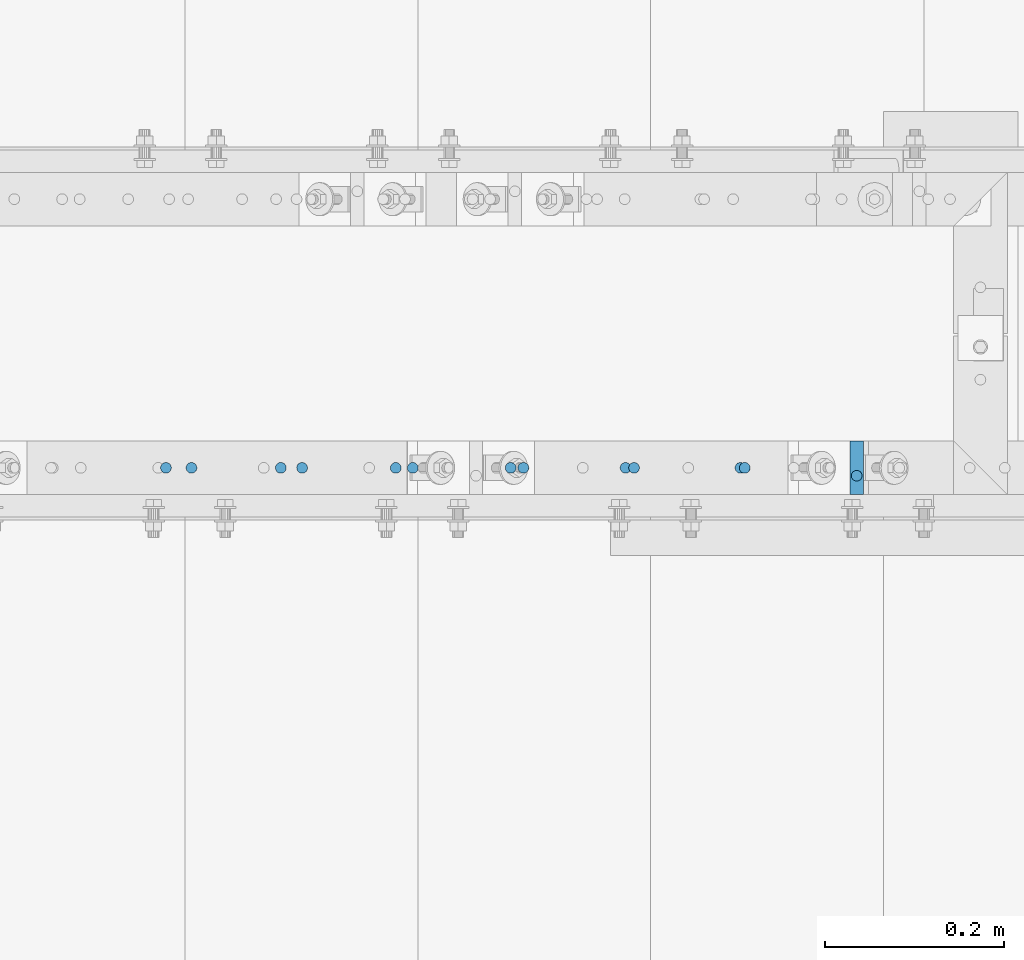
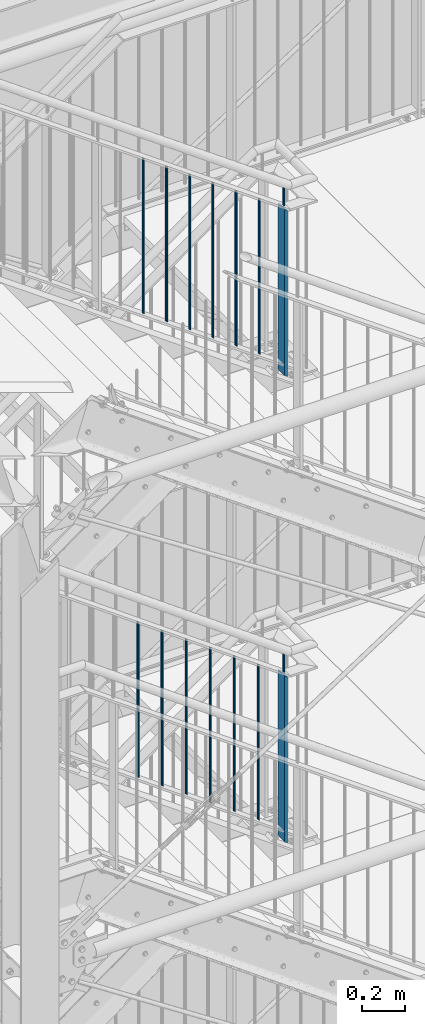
# One storey, part 61 of 825: 16 columns.
"""IFC2X3 building model written with IfcOpenShell, lengths in millimetres."""

from ifc_helpers import new_model, entity, si_unit, converted_unit, frame, origin, origin_with_axes, origin_2d, place, context, project, spatial, rectangle, circle, extrude, clip, halfspace, material, element, save


model = new_model("IFC2X3")

# Units and contexts
model_context = context("Model", 3, precision=1e-09, world=origin_with_axes())
ifc_project = project(units=[si_unit("LENGTHUNIT", "METRE", prefix="MILLI"), si_unit("AREAUNIT", "SQUARE_METRE"), si_unit("VOLUMEUNIT", "CUBIC_METRE"), converted_unit("PLANEANGLEUNIT", "DEGREE", entity("IfcPlaneAngleMeasure", 0.01745329), si_unit("PLANEANGLEUNIT", "RADIAN"), dimensions=[0, 0, 0, 0, 0, 0, 0])], contexts=[model_context])

# Site, building, storey
site_placement = place(None, origin_with_axes())
site = spatial("IfcSite", under=ifc_project, at=site_placement, Name="Cnopf'sche Kinderklinik", CompositionType="ELEMENT")
building_placement = place(site_placement, origin_with_axes())
building = spatial("IfcBuilding", under=site, at=building_placement, Name="Struktur 1", CompositionType="ELEMENT")
storey_placement = place(building_placement, origin_with_axes())
storey = spatial("IfcBuildingStorey", under=building, at=storey_placement, Name="Default Storey", CompositionType="ELEMENT", Elevation=0.0)

# Columns
ifc_material = material(Name="S235JR")
column_1_placement = place(None, frame((7026.714402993, 5791.736971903, 14957.874708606), z_axis=(0.0, 0.0, 1.0), x_axis=(-1.0, 0.0, 0.0)))
element("IfcColumn", 1, at=column_1_placement, inside=storey, material=ifc_material, Name="Railing_Post_Stair#0", ObjectType="Railing_Post_Stair#0", context=model_context, shape_type="Clipping", body=[
    clip(clip(extrude(rectangle(XDim=15.0, YDim=60.0, at=origin_2d()), origin(), (0.0, 0.0, -1.0), 1013.143391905), halfspace(frame((-2031.14262409, 5791.736971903, -2445.313197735), z_axis=(-0.586383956, 0.0, 0.810033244), x_axis=(0.0, -1.0, 0.0)), True)), halfspace(frame((-2476.109090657, 5791.736971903, -1830.634663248), z_axis=(0.586383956, 0.0, -0.810033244), x_axis=(0.0, 1.0, 0.0)), True)),
])
column_2_placement = place(None, frame((6896.934402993, 5791.736971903, 15024.122482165), z_axis=(0.0, 0.0, 1.0), x_axis=(-1.0, 0.0, 0.0)))
element("IfcColumn", 2, at=column_2_placement, inside=storey, material=ifc_material, Name="Railing_Picket_Stair#0", ObjectType="Railing_Picket_Stair#0", context=model_context, shape_type="Clipping", body=[
    clip(clip(extrude(circle(Radius=6.0, at=origin_2d()), origin(), (0.0, 0.0, -1.0), 896.017308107), halfspace(frame((-2605.889090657, 5791.736971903, -1896.882436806), z_axis=(0.586383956, 0.0, -0.810033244), x_axis=(0.0, 1.0, 0.0)), True)), halfspace(frame((-2190.241821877, 5791.736971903, -2471.059309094), z_axis=(-0.586383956, 0.0, 0.810033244), x_axis=(0.0, -1.0, 0.0)), True)),
])
column_3_placement = place(None, frame((6768.657188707, 5791.736971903, 15116.982498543), z_axis=(0.0, 0.0, 1.0), x_axis=(-1.0, 0.0, 0.0)))
element("IfcColumn", 3, at=column_3_placement, inside=storey, material=ifc_material, Name="Railing_Picket_Stair#1", ObjectType="Railing_Picket_Stair#1", context=model_context, shape_type="Clipping", body=[
    clip(clip(extrude(circle(Radius=6.0, at=origin_2d()), origin(), (0.0, 0.0, -1.0), 896.017308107), halfspace(frame((-2734.166304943, 5791.736971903, -1989.742453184), z_axis=(0.586383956, 0.0, -0.810033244), x_axis=(0.0, 1.0, 0.0)), True)), halfspace(frame((-2318.519036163, 5791.736971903, -2563.919325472), z_axis=(-0.586383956, 0.0, 0.810033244), x_axis=(0.0, -1.0, 0.0)), True)),
])
column_4_placement = place(None, frame((6640.379974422, 5791.736971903, 15209.842514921), z_axis=(0.0, 0.0, 1.0), x_axis=(-1.0, 0.0, 0.0)))
element("IfcColumn", 4, at=column_4_placement, inside=storey, material=ifc_material, Name="Railing_Picket_Stair#2", ObjectType="Railing_Picket_Stair#2", context=model_context, shape_type="Clipping", body=[
    clip(clip(extrude(circle(Radius=6.0, at=origin_2d()), origin(), (0.0, 0.0, -1.0), 896.017308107), halfspace(frame((-2862.443519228, 5791.736971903, -2082.602469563), z_axis=(0.586383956, 0.0, -0.810033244), x_axis=(0.0, 1.0, 0.0)), True)), halfspace(frame((-2446.796250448, 5791.736971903, -2656.779341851), z_axis=(-0.586383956, 0.0, 0.810033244), x_axis=(0.0, -1.0, 0.0)), True)),
])
column_5_placement = place(None, frame((6512.102760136, 5791.736971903, 15302.7025313), z_axis=(0.0, 0.0, 1.0), x_axis=(-1.0, 0.0, 0.0)))
element("IfcColumn", 5, at=column_5_placement, inside=storey, material=ifc_material, Name="Railing_Picket_Stair#3", ObjectType="Railing_Picket_Stair#3", context=model_context, shape_type="Clipping", body=[
    clip(clip(extrude(circle(Radius=6.0, at=origin_2d()), origin(), (0.0, 0.0, -1.0), 896.017308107), halfspace(frame((-2990.720733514, 5791.736971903, -2175.462485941), z_axis=(0.586383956, 0.0, -0.810033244), x_axis=(0.0, 1.0, 0.0)), True)), halfspace(frame((-2575.073464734, 5791.736971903, -2749.639358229), z_axis=(-0.586383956, 0.0, 0.810033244), x_axis=(0.0, -1.0, 0.0)), True)),
])
column_6_placement = place(None, frame((6383.82554585, 5791.736971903, 15395.562547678), z_axis=(0.0, 0.0, 1.0), x_axis=(-1.0, 0.0, 0.0)))
element("IfcColumn", 6, at=column_6_placement, inside=storey, material=ifc_material, Name="Railing_Picket_Stair#4", ObjectType="Railing_Picket_Stair#4", context=model_context, shape_type="Clipping", body=[
    clip(clip(extrude(circle(Radius=6.0, at=origin_2d()), origin(), (0.0, 0.0, -1.0), 896.017308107), halfspace(frame((-3118.9979478, 5791.736971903, -2268.322502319), z_axis=(0.586383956, 0.0, -0.810033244), x_axis=(0.0, 1.0, 0.0)), True)), halfspace(frame((-2703.35067902, 5791.736971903, -2842.499374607), z_axis=(-0.586383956, 0.0, 0.810033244), x_axis=(0.0, -1.0, 0.0)), True)),
])
column_7_placement = place(None, frame((6255.548331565, 5791.736971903, 15488.422564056), z_axis=(0.0, 0.0, 1.0), x_axis=(-1.0, 0.0, 0.0)))
element("IfcColumn", 7, at=column_7_placement, inside=storey, material=ifc_material, Name="Railing_Picket_Stair#5", ObjectType="Railing_Picket_Stair#5", context=model_context, shape_type="Clipping", body=[
    clip(clip(extrude(circle(Radius=6.0, at=origin_2d()), origin(), (0.0, 0.0, -1.0), 896.017308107), halfspace(frame((-3247.275162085, 5791.736971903, -2361.182518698), z_axis=(0.586383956, 0.0, -0.810033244), x_axis=(0.0, 1.0, 0.0)), True)), halfspace(frame((-2831.627893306, 5791.736971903, -2935.359390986), z_axis=(-0.586383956, 0.0, 0.810033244), x_axis=(0.0, -1.0, 0.0)), True)),
])
column_8_placement = place(None, frame((7026.714402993, 5782.936971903, 15042.519769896), z_axis=(0.0, 0.0, 1.0), x_axis=(0.0, 1.0, 0.0)))
element("IfcColumn", 8, at=column_8_placement, inside=storey, material=ifc_material, Name="Bar#0", ObjectType="Bar#0", context=model_context, shape_type="Clipping", body=[
    clip(clip(extrude(circle(Radius=6.0, at=origin_2d()), origin(), (0.0, 0.0, -1.0), 120.950452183), halfspace(frame((-5782.936971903, -2481.97410298, -1907.177772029), z_axis=(0.0, -0.586383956, 0.810033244), x_axis=(1.0, 0.0, 0.0)), True)), halfspace(frame((-5782.936971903, -2529.471979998, -1841.564006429), z_axis=(0.0, 0.586383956, -0.810033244), x_axis=(-1.0, 0.0, 0.0)), True)),
])
column_9_placement = place(None, frame((7026.714402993, 5791.736971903, 17585.251753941), z_axis=(0.0, 0.0, 1.0), x_axis=(-1.0, 0.0, 0.0)))
element("IfcColumn", 9, at=column_9_placement, inside=storey, material=ifc_material, Name="Railing_Post_Stair#0", ObjectType="Railing_Post_Stair#0", context=model_context, shape_type="Clipping", body=[
    clip(clip(extrude(rectangle(XDim=15.0, YDim=60.0, at=origin_2d()), origin(), (0.0, 0.0, -1.0), 1013.117713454), halfspace(frame((-3246.860085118, 5791.736971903, -3312.041393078), z_axis=(-0.584187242, 0.0, 0.811618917), x_axis=(0.0, -1.0, 0.0)), True)), halfspace(frame((-3691.085946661, 5791.736971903, -2694.872638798), z_axis=(0.584187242, 0.0, -0.811618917), x_axis=(0.0, 1.0, 0.0)), True)),
])
column_10_placement = place(None, frame((6901.684402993, 5791.736971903, 17647.599881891), z_axis=(0.0, 0.0, 1.0), x_axis=(-1.0, 0.0, 0.0)))
element("IfcColumn", 10, at=column_10_placement, inside=storey, material=ifc_material, Name="Railing_Picket_Stair#0", ObjectType="Railing_Picket_Stair#0", context=model_context, shape_type="Clipping", body=[
    clip(clip(extrude(circle(Radius=6.0, at=origin_2d()), origin(), (0.0, 0.0, -1.0), 896.220460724), halfspace(frame((-3816.115946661, 5791.736971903, -2757.220766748), z_axis=(0.584187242, 0.0, -0.811618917), x_axis=(0.0, 1.0, 0.0)), True)), halfspace(frame((-3401.099447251, 5791.736971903, -3333.808575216), z_axis=(-0.584187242, 0.0, 0.811618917), x_axis=(0.0, -1.0, 0.0)), True)),
])
column_11_placement = place(None, frame((6778.15269466, 5791.736971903, 17736.515562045), z_axis=(0.0, 0.0, 1.0), x_axis=(-1.0, 0.0, 0.0)))
element("IfcColumn", 11, at=column_11_placement, inside=storey, material=ifc_material, Name="Railing_Picket_Stair#1", ObjectType="Railing_Picket_Stair#1", context=model_context, shape_type="Clipping", body=[
    clip(clip(extrude(circle(Radius=6.0, at=origin_2d()), origin(), (0.0, 0.0, -1.0), 896.220460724), halfspace(frame((-3939.647654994, 5791.736971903, -2846.136446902), z_axis=(0.584187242, 0.0, -0.811618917), x_axis=(0.0, 1.0, 0.0)), True)), halfspace(frame((-3524.631155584, 5791.736971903, -3422.72425537), z_axis=(-0.584187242, 0.0, 0.811618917), x_axis=(0.0, -1.0, 0.0)), True)),
])
column_12_placement = place(None, frame((6654.620986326, 5791.736971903, 17825.431242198), z_axis=(0.0, 0.0, 1.0), x_axis=(-1.0, 0.0, 0.0)))
element("IfcColumn", 12, at=column_12_placement, inside=storey, material=ifc_material, Name="Railing_Picket_Stair#2", ObjectType="Railing_Picket_Stair#2", context=model_context, shape_type="Clipping", body=[
    clip(clip(extrude(circle(Radius=6.0, at=origin_2d()), origin(), (0.0, 0.0, -1.0), 896.220460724), halfspace(frame((-4063.179363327, 5791.736971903, -2935.052127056), z_axis=(0.584187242, 0.0, -0.811618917), x_axis=(0.0, 1.0, 0.0)), True)), halfspace(frame((-3648.162863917, 5791.736971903, -3511.639935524), z_axis=(-0.584187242, 0.0, 0.811618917), x_axis=(0.0, -1.0, 0.0)), True)),
])
column_13_placement = place(None, frame((6531.089277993, 5791.736971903, 17914.346922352), z_axis=(0.0, 0.0, 1.0), x_axis=(-1.0, 0.0, 0.0)))
element("IfcColumn", 13, at=column_13_placement, inside=storey, material=ifc_material, Name="Railing_Picket_Stair#3", ObjectType="Railing_Picket_Stair#3", context=model_context, shape_type="Clipping", body=[
    clip(clip(extrude(circle(Radius=6.0, at=origin_2d()), origin(), (0.0, 0.0, -1.0), 896.220460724), halfspace(frame((-4186.711071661, 5791.736971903, -3023.967807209), z_axis=(0.584187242, 0.0, -0.811618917), x_axis=(0.0, 1.0, 0.0)), True)), halfspace(frame((-3771.694572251, 5791.736971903, -3600.555615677), z_axis=(-0.584187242, 0.0, 0.811618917), x_axis=(0.0, -1.0, 0.0)), True)),
])
column_14_placement = place(None, frame((6407.55756966, 5791.736971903, 18003.262602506), z_axis=(0.0, 0.0, 1.0), x_axis=(-1.0, 0.0, 0.0)))
element("IfcColumn", 14, at=column_14_placement, inside=storey, material=ifc_material, Name="Railing_Picket_Stair#4", ObjectType="Railing_Picket_Stair#4", context=model_context, shape_type="Clipping", body=[
    clip(clip(extrude(circle(Radius=6.0, at=origin_2d()), origin(), (0.0, 0.0, -1.0), 896.220460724), halfspace(frame((-4310.242779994, 5791.736971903, -3112.883487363), z_axis=(0.584187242, 0.0, -0.811618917), x_axis=(0.0, 1.0, 0.0)), True)), halfspace(frame((-3895.226280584, 5791.736971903, -3689.471295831), z_axis=(-0.584187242, 0.0, 0.811618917), x_axis=(0.0, -1.0, 0.0)), True)),
])
column_15_placement = place(None, frame((6284.025861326, 5791.736971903, 18092.178282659), z_axis=(0.0, 0.0, 1.0), x_axis=(-1.0, 0.0, 0.0)))
element("IfcColumn", 15, at=column_15_placement, inside=storey, material=ifc_material, Name="Railing_Picket_Stair#5", ObjectType="Railing_Picket_Stair#5", context=model_context, shape_type="Clipping", body=[
    clip(clip(extrude(circle(Radius=6.0, at=origin_2d()), origin(), (0.0, 0.0, -1.0), 896.220460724), halfspace(frame((-4433.774488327, 5791.736971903, -3201.799167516), z_axis=(0.584187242, 0.0, -0.811618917), x_axis=(0.0, 1.0, 0.0)), True)), halfspace(frame((-4018.757988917, 5791.736971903, -3778.386975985), z_axis=(-0.584187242, 0.0, 0.811618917), x_axis=(0.0, -1.0, 0.0)), True)),
])
column_16_placement = place(None, frame((7026.714402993, 5782.936971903, 17669.926814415), z_axis=(0.0, 0.0, 1.0), x_axis=(0.0, 1.0, 0.0)))
element("IfcColumn", 16, at=column_16_placement, inside=storey, material=ifc_material, Name="Bar#0", ObjectType="Bar#0", context=model_context, shape_type="Clipping", body=[
    clip(clip(extrude(circle(Radius=6.0, at=origin_2d()), origin(), (0.0, 0.0, -1.0), 120.909520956), halfspace(frame((-5782.936971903, -3696.928987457, -2771.429886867), z_axis=(0.0, -0.584187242, 0.811618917), x_axis=(1.0, 0.0, 0.0)), True)), halfspace(frame((-5782.936971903, -3744.341560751, -2705.558983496), z_axis=(0.0, 0.584187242, -0.811618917), x_axis=(-1.0, 0.0, 0.0)), True)),
])

save(model, "model.ifc")
